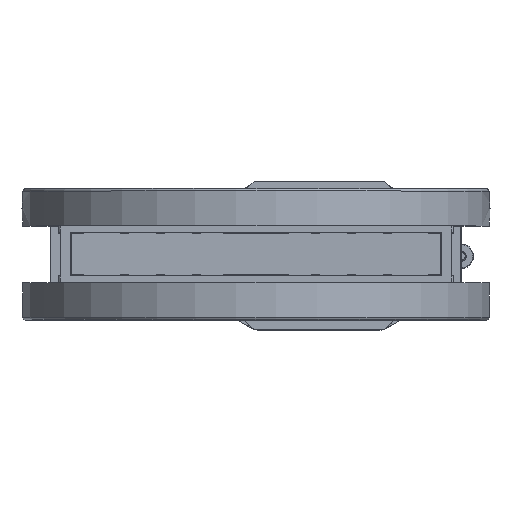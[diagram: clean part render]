
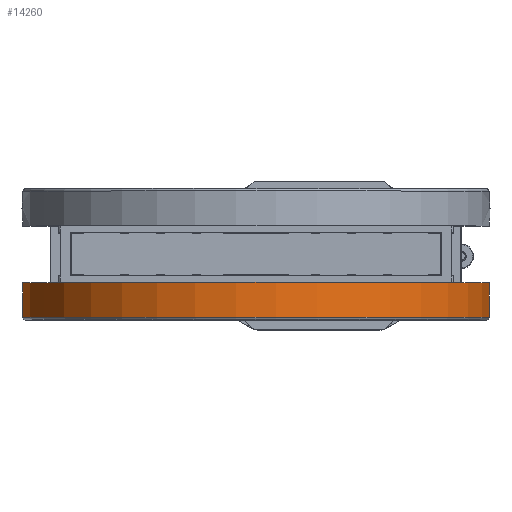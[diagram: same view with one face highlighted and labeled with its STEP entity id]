
A CAD part, top view. The second image highlights one B-rep face of the part: STEP entity #14260.
In plain terms, the highlighted cylindrical face has radius 142.5 mm (diameter 285 mm), a full revolution.
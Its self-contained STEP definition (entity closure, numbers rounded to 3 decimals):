
#14260=ADVANCED_FACE('BCT_REF_56374',(#15659,#15660),#15141,.T.);
#15141=CYLINDRICAL_SURFACE('',#32862,142.5);
#15659=FACE_BOUND('',#17155,.T.);
#15660=FACE_BOUND('',#17156,.T.);
#17155=EDGE_LOOP('',(#21850));
#17156=EDGE_LOOP('',(#21851));
#21850=ORIENTED_EDGE('',*,*,#29628,.F.);
#21851=ORIENTED_EDGE('',*,*,#29634,.T.);
#26580=VERTEX_POINT('',#44947);
#26586=VERTEX_POINT('',#44964);
#29628=EDGE_CURVE('',#26580,#26580,#31514,.T.);
#29634=EDGE_CURVE('',#26586,#26586,#31520,.T.);
#31514=CIRCLE('',#32849,142.5);
#31520=CIRCLE('',#32860,142.5);
#32849=AXIS2_PLACEMENT_3D('',#44946,#37192,#37193);
#32860=AXIS2_PLACEMENT_3D('',#44963,#37214,#37215);
#32862=AXIS2_PLACEMENT_3D('',#44966,#37218,#37219);
#37192=DIRECTION('',(0.,-1.,0.));
#37193=DIRECTION('',(0.966,0.,-0.259));
#37214=DIRECTION('',(0.,-1.,0.));
#37215=DIRECTION('',(0.966,0.,-0.259));
#37218=DIRECTION('',(0.,-1.,0.));
#37219=DIRECTION('',(0.966,0.,-0.259));
#44946=CARTESIAN_POINT('',(0.,-38.425,412.));
#44947=CARTESIAN_POINT('',(137.644,-38.425,375.118));
#44963=CARTESIAN_POINT('',(0.,-17.225,412.));
#44964=CARTESIAN_POINT('',(137.644,-17.225,375.118));
#44966=CARTESIAN_POINT('',(0.,-39.925,412.));
